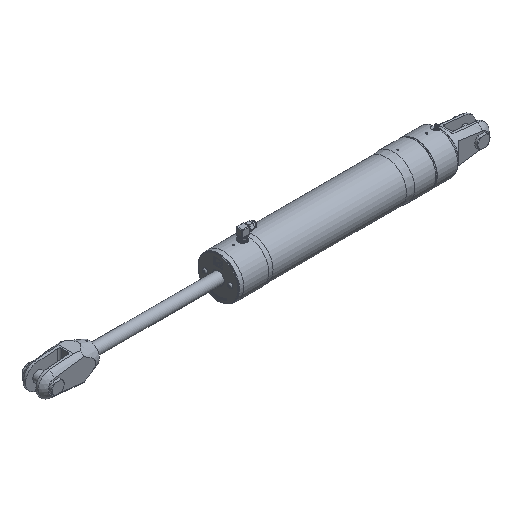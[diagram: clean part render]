
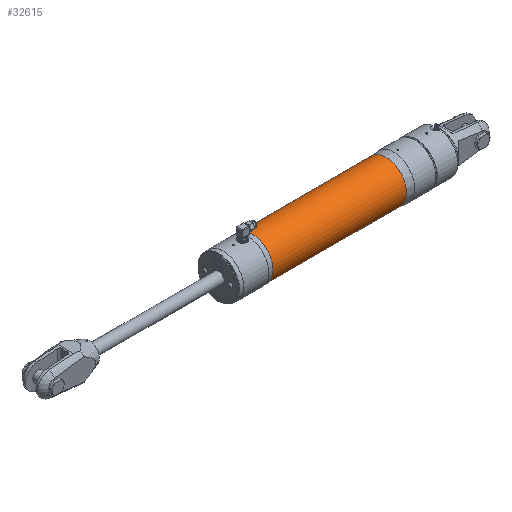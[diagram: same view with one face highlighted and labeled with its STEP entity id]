
A CAD part, isometric view. The second image highlights one B-rep face of the part: STEP entity #32615.
In plain terms, the highlighted cylindrical face has radius 76.2 mm (diameter 152.4 mm), a full revolution.
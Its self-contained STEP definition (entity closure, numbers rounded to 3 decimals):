
#3334=FACE_OUTER_BOUND('',#5115,.T.);
#5115=EDGE_LOOP('',(#21609,#21610,#21611,#21612,#21613,#21614));
#7046=LINE('',#42958,#10014);
#10014=VECTOR('',#36309,76.2);
#12973=CIRCLE('',#34467,76.2);
#12974=CIRCLE('',#34468,76.2);
#12976=CIRCLE('',#34471,76.2);
#12977=CIRCLE('',#34472,76.2);
#13452=VERTEX_POINT('',#42950);
#13453=VERTEX_POINT('',#42952);
#13454=VERTEX_POINT('',#42957);
#13455=VERTEX_POINT('',#42959);
#16682=EDGE_CURVE('',#13453,#13452,#12973,.T.);
#16683=EDGE_CURVE('',#13452,#13453,#12974,.T.);
#16685=EDGE_CURVE('',#13452,#13454,#7046,.T.);
#16686=EDGE_CURVE('',#13455,#13454,#12976,.T.);
#16687=EDGE_CURVE('',#13454,#13455,#12977,.T.);
#21609=ORIENTED_EDGE('',*,*,#16682,.T.);
#21610=ORIENTED_EDGE('',*,*,#16685,.T.);
#21611=ORIENTED_EDGE('',*,*,#16686,.F.);
#21612=ORIENTED_EDGE('',*,*,#16687,.F.);
#21613=ORIENTED_EDGE('',*,*,#16685,.F.);
#21614=ORIENTED_EDGE('',*,*,#16683,.T.);
#30884=CYLINDRICAL_SURFACE('',#34470,76.2);
#32615=ADVANCED_FACE('',(#3334),#30884,.T.);
#34467=AXIS2_PLACEMENT_3D('',#42953,#36301,#36302);
#34468=AXIS2_PLACEMENT_3D('',#42954,#36303,#36304);
#34470=AXIS2_PLACEMENT_3D('',#42956,#36307,#36308);
#34471=AXIS2_PLACEMENT_3D('',#42960,#36310,#36311);
#34472=AXIS2_PLACEMENT_3D('',#42961,#36312,#36313);
#36301=DIRECTION('center_axis',(1.,0.,0.));
#36302=DIRECTION('ref_axis',(0.,0.,
-1.));
#36303=DIRECTION('center_axis',(1.,0.,0.));
#36304=DIRECTION('ref_axis',(0.,0.,
-1.));
#36307=DIRECTION('center_axis',(1.,0.,0.));
#36308=DIRECTION('ref_axis',(0.,0.,
1.));
#36309=DIRECTION('',(1.,0.,0.));
#36310=DIRECTION('center_axis',(1.,0.,0.));
#36311=DIRECTION('ref_axis',(0.,0.,
-1.));
#36312=DIRECTION('center_axis',(1.,0.,0.));
#36313=DIRECTION('ref_axis',(0.,0.,
-1.));
#42950=CARTESIAN_POINT('',(-591.234,0.,-76.2));
#42952=CARTESIAN_POINT('',(-591.234,0.,76.2));
#42953=CARTESIAN_POINT('Origin',(-591.234,0.,
0.));
#42954=CARTESIAN_POINT('Origin',(-591.234,0.,
0.));
#42956=CARTESIAN_POINT('Origin',(-344.138,0.,
0.));
#42957=CARTESIAN_POINT('',(-97.041,0.,-76.2));
#42958=CARTESIAN_POINT('',(-344.138,0.,-76.2));
#42959=CARTESIAN_POINT('',(-97.041,0.,76.2));
#42960=CARTESIAN_POINT('Origin',(-97.041,0.,
0.));
#42961=CARTESIAN_POINT('Origin',(-97.041,0.,
0.));
